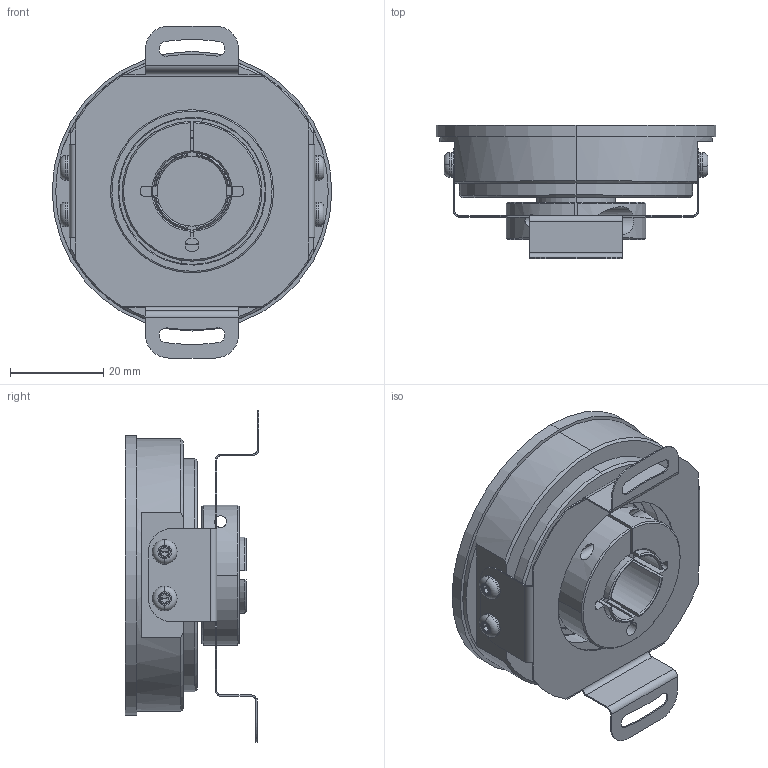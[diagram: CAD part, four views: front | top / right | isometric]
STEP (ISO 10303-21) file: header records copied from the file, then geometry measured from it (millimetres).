
FILE_DESCRIPTION (( 'STEP AP214' ), '1' );
FILE_NAME ('OCD-B15V-C5Y-N.STEP', '2013-03-05T14:54:07', ( '' ), ( '' ), 'SwSTEP 2.0', 'SolidWorks 2006104', '' );
FILE_SCHEMA (( 'AUTOMOTIVE_DESIGN' ));
Length unit declared in the file: millimetre
Products named in the file (1): OCD-B15V-C5Y-N
Bounding box: 60 x 28.73 x 71.24 mm (x, y, z)
Surface area: 24961.5 mm2 (no closed solid volume)
Topology: 0 solids, 16 shells, 518 faces, 1294 edges, 812 vertices
Faces by surface type: cylinder 176, plane 147, cone 131, torus 60, bspline 4
Entity records: 22508 total; most frequent: CARTESIAN_POINT 4176, DIRECTION 2821, ORIENTED_EDGE 2536, EDGE_CURVE 1276, AXIS2_PLACEMENT_3D 1194, VERTEX_POINT 812, CIRCLE 679, EDGE_LOOP 574
